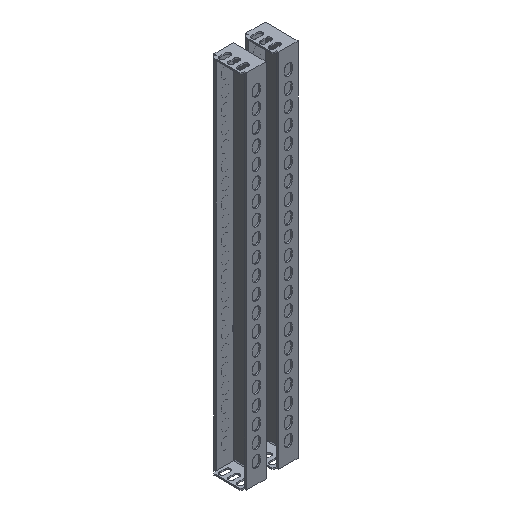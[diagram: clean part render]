
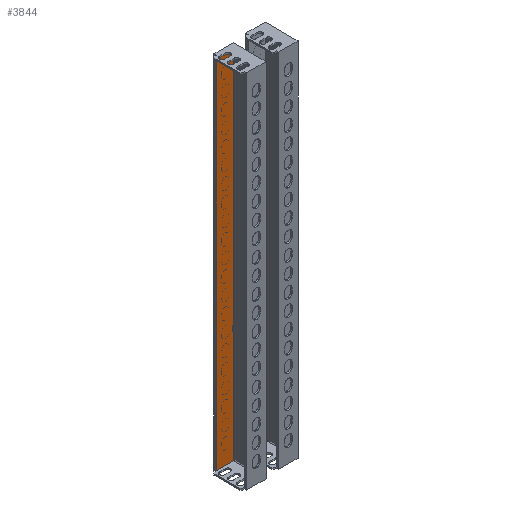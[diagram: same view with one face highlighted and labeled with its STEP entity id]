
A CAD part, isometric view. The second image highlights one B-rep face of the part: STEP entity #3844.
In plain terms, the highlighted planar face has unit normal (0, -1, 0).
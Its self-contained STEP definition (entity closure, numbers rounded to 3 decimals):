
#264 = EDGE_LOOP ( 'NONE', ( #7357, #9736, #4659, #5669 ) ) ;
#881 = CARTESIAN_POINT ( 'NONE',  ( -3., 20., -251. ) ) ;
#918 = EDGE_CURVE ( 'NONE', #1479, #4730, #9216, .T. ) ;
#1479 = VERTEX_POINT ( 'NONE', #8591 ) ;
#2545 = DIRECTION ( 'NONE',  ( 1., 0., 0. ) ) ;
#2566 = DIRECTION ( 'NONE',  ( 0., 0., 1. ) ) ;
#2994 = AXIS2_PLACEMENT_3D ( 'NONE', #9959, #7925, #2545 ) ;
#3844 = ADVANCED_FACE ( 'NONE', ( #9901 ), #9010, .F. ) ;
#4113 = LINE ( 'NONE', #7714, #10869 ) ;
#4609 = DIRECTION ( 'NONE',  ( 1., 0., 0. ) ) ;
#4659 = ORIENTED_EDGE ( 'NONE', *, *, #9913, .T. ) ;
#4730 = VERTEX_POINT ( 'NONE', #9927 ) ;
#5106 = VERTEX_POINT ( 'NONE', #5223 ) ;
#5223 = CARTESIAN_POINT ( 'NONE',  ( -27., 20., -251. ) ) ;
#5561 = LINE ( 'NONE', #881, #10276 ) ;
#5669 = ORIENTED_EDGE ( 'NONE', *, *, #10650, .T. ) ;
#6708 = CARTESIAN_POINT ( 'NONE',  ( -32., 20., 251. ) ) ;
#7062 = CARTESIAN_POINT ( 'NONE',  ( -27., 20., -275.021 ) ) ;
#7357 = ORIENTED_EDGE ( 'NONE', *, *, #918, .T. ) ;
#7600 = VECTOR ( 'NONE', #2566, 1000. ) ;
#7714 = CARTESIAN_POINT ( 'NONE',  ( -3., 20., -275.021 ) ) ;
#7925 = DIRECTION ( 'NONE',  ( 0., 1., 0. ) ) ;
#8591 = CARTESIAN_POINT ( 'NONE',  ( -3., 20., 251. ) ) ;
#8865 = VECTOR ( 'NONE', #10339, 1000. ) ;
#8892 = VERTEX_POINT ( 'NONE', #11351 ) ;
#9010 = PLANE ( 'NONE',  #2994 ) ;
#9216 = LINE ( 'NONE', #6708, #8865 ) ;
#9486 = EDGE_CURVE ( 'NONE', #5106, #4730, #11639, .T. ) ;
#9736 = ORIENTED_EDGE ( 'NONE', *, *, #9486, .F. ) ;
#9901 = FACE_OUTER_BOUND ( 'NONE', #264, .T. ) ;
#9913 = EDGE_CURVE ( 'NONE', #5106, #8892, #5561, .T. ) ;
#9927 = CARTESIAN_POINT ( 'NONE',  ( -27., 20., 251. ) ) ;
#9959 = CARTESIAN_POINT ( 'NONE',  ( -3., 20., -275.021 ) ) ;
#10276 = VECTOR ( 'NONE', #4609, 1000. ) ;
#10339 = DIRECTION ( 'NONE',  ( -1., 0., 0. ) ) ;
#10650 = EDGE_CURVE ( 'NONE', #8892, #1479, #4113, .T. ) ;
#10869 = VECTOR ( 'NONE', #11463, 1000. ) ;
#11351 = CARTESIAN_POINT ( 'NONE',  ( -3., 20., -251. ) ) ;
#11463 = DIRECTION ( 'NONE',  ( 0., 0., 1. ) ) ;
#11639 = LINE ( 'NONE', #7062, #7600 ) ;
